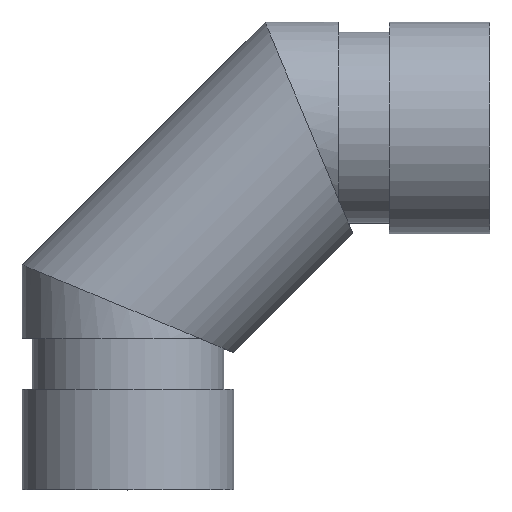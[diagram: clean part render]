
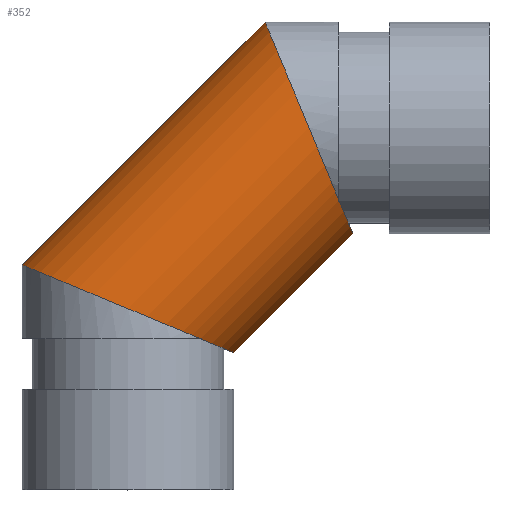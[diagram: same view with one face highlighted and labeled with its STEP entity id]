
A CAD part, top view. The second image highlights one B-rep face of the part: STEP entity #352.
In plain terms, the highlighted cylindrical face has radius 16.701 mm (diameter 33.401 mm), a full revolution.
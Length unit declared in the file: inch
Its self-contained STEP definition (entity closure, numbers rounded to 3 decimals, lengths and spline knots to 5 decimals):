
#45=ELLIPSE('',#384,0.71167,0.6575);
#46=ELLIPSE('',#388,0.71167,0.6575);
#47=ELLIPSE('',#389,0.71167,0.6575);
#48=ELLIPSE('',#390,0.71167,0.6575);
#49=ELLIPSE('',#391,0.71167,0.6575);
#50=ELLIPSE('',#403,0.71167,0.6575);
#51=ELLIPSE('',#405,0.71167,0.6575);
#52=ELLIPSE('',#406,0.71167,0.6575);
#53=ELLIPSE('',#407,0.71167,0.6575);
#54=ELLIPSE('',#408,0.71167,0.6575);
#88=FACE_OUTER_BOUND('',#111,.T.);
#111=EDGE_LOOP('',(#287,#288,#289,#290,#291,#292,#293,#294,#295,#296,#297,
#298));
#121=LINE('',#665,#129);
#129=VECTOR('',#546,0.6575);
#153=VERTEX_POINT('',#592);
#154=VERTEX_POINT('',#593);
#156=VERTEX_POINT('',#602);
#157=VERTEX_POINT('',#604);
#158=VERTEX_POINT('',#606);
#159=VERTEX_POINT('',#610);
#160=VERTEX_POINT('',#611);
#166=VERTEX_POINT('',#630);
#167=VERTEX_POINT('',#632);
#168=VERTEX_POINT('',#634);
#186=EDGE_CURVE('',#154,#153,#45,.T.);
#188=EDGE_CURVE('',#156,#154,#46,.T.);
#189=EDGE_CURVE('',#156,#157,#47,.T.);
#190=EDGE_CURVE('',#157,#158,#48,.T.);
#191=EDGE_CURVE('',#153,#158,#49,.T.);
#200=EDGE_CURVE('',#159,#160,#50,.T.);
#201=EDGE_CURVE('',#160,#166,#51,.T.);
#202=EDGE_CURVE('',#167,#166,#52,.T.);
#203=EDGE_CURVE('',#168,#167,#53,.T.);
#204=EDGE_CURVE('',#168,#159,#54,.T.);
#218=EDGE_CURVE('',#157,#167,#121,.T.);
#287=ORIENTED_EDGE('',*,*,#189,.F.);
#288=ORIENTED_EDGE('',*,*,#188,.T.);
#289=ORIENTED_EDGE('',*,*,#186,.T.);
#290=ORIENTED_EDGE('',*,*,#191,.T.);
#291=ORIENTED_EDGE('',*,*,#190,.F.);
#292=ORIENTED_EDGE('',*,*,#218,.T.);
#293=ORIENTED_EDGE('',*,*,#202,.T.);
#294=ORIENTED_EDGE('',*,*,#201,.F.);
#295=ORIENTED_EDGE('',*,*,#200,.F.);
#296=ORIENTED_EDGE('',*,*,#204,.F.);
#297=ORIENTED_EDGE('',*,*,#203,.T.);
#298=ORIENTED_EDGE('',*,*,#218,.F.);
#315=CYLINDRICAL_SURFACE('',#423,0.6575);
#352=ADVANCED_FACE('',(#88),#315,.T.);
#384=AXIS2_PLACEMENT_3D('',#597,#461,#462);
#388=AXIS2_PLACEMENT_3D('',#603,#469,#470);
#389=AXIS2_PLACEMENT_3D('',#605,#471,#472);
#390=AXIS2_PLACEMENT_3D('',#607,#473,#474);
#391=AXIS2_PLACEMENT_3D('',#608,#475,#476);
#403=AXIS2_PLACEMENT_3D('',#628,#500,#501);
#405=AXIS2_PLACEMENT_3D('',#631,#504,#505);
#406=AXIS2_PLACEMENT_3D('',#633,#506,#507);
#407=AXIS2_PLACEMENT_3D('',#635,#508,#509);
#408=AXIS2_PLACEMENT_3D('',#636,#510,#511);
#423=AXIS2_PLACEMENT_3D('',#664,#544,#545);
#461=DIRECTION('center_axis',(0.383,0.924,0.));
#462=DIRECTION('ref_axis',(0.924,-0.383,0.));
#469=DIRECTION('center_axis',(0.383,0.924,0.));
#470=DIRECTION('ref_axis',(0.924,-0.383,0.));
#471=DIRECTION('center_axis',(-0.383,-0.924,0.));
#472=DIRECTION('ref_axis',(0.924,-0.383,0.));
#473=DIRECTION('center_axis',(-0.383,-0.924,0.));
#474=DIRECTION('ref_axis',(0.924,-0.383,0.));
#475=DIRECTION('center_axis',(0.383,0.924,0.));
#476=DIRECTION('ref_axis',(0.924,-0.383,0.));
#500=DIRECTION('center_axis',(0.924,0.383,0.));
#501=DIRECTION('ref_axis',(0.383,-0.924,0.));
#504=DIRECTION('center_axis',(0.924,0.383,0.));
#505=DIRECTION('ref_axis',(0.383,-0.924,0.));
#506=DIRECTION('center_axis',(-0.924,-0.383,0.));
#507=DIRECTION('ref_axis',(0.383,-0.924,0.));
#508=DIRECTION('center_axis',(-0.924,-0.383,0.));
#509=DIRECTION('ref_axis',(0.383,-0.924,0.));
#510=DIRECTION('center_axis',(0.924,0.383,0.));
#511=DIRECTION('ref_axis',(0.383,-0.924,0.));
#544=DIRECTION('center_axis',(-0.707,-0.707,0.));
#545=DIRECTION('ref_axis',(0.707,-0.707,0.));
#546=DIRECTION('',(0.707,0.707,0.));
#592=CARTESIAN_POINT('',(0.45146,-1.312,-0.47801));
#593=CARTESIAN_POINT('',(0.45146,-1.312,0.47801));
#597=CARTESIAN_POINT('Origin',(0.,-1.125,0.));
#602=CARTESIAN_POINT('',(0.,-1.125,0.6575));
#603=CARTESIAN_POINT('Origin',(0.,-1.125,0.));
#604=CARTESIAN_POINT('',(-0.6575,-0.85265,0.));
#605=CARTESIAN_POINT('Origin',(0.,-1.125,0.));
#606=CARTESIAN_POINT('',(0.,-1.125,-0.6575));
#607=CARTESIAN_POINT('Origin',(0.,-1.125,0.));
#608=CARTESIAN_POINT('Origin',(0.,-1.125,0.));
#610=CARTESIAN_POINT('',(1.312,-0.45146,0.47801));
#611=CARTESIAN_POINT('',(1.312,-0.45146,-0.47801));
#628=CARTESIAN_POINT('Origin',(1.125,0.,0.));
#630=CARTESIAN_POINT('',(1.125,0.,-0.6575));
#631=CARTESIAN_POINT('Origin',(1.125,0.,0.));
#632=CARTESIAN_POINT('',(0.85265,0.6575,0.));
#633=CARTESIAN_POINT('Origin',(1.125,0.,0.));
#634=CARTESIAN_POINT('',(1.125,0.,0.6575));
#635=CARTESIAN_POINT('Origin',(1.125,0.,0.));
#636=CARTESIAN_POINT('Origin',(1.125,0.,0.));
#664=CARTESIAN_POINT('Origin',(1.125,0.,0.));
#665=CARTESIAN_POINT('',(0.66008,0.46492,0.));
